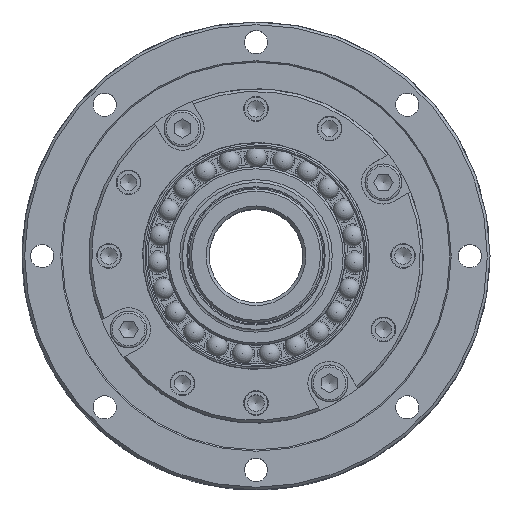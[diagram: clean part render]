
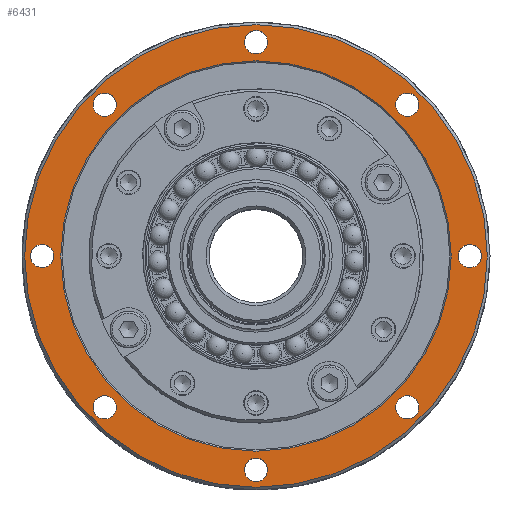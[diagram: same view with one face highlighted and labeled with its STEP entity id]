
A CAD part, top view. The second image highlights one B-rep face of the part: STEP entity #6431.
In plain terms, the highlighted planar face has unit normal (0, 0, 1).
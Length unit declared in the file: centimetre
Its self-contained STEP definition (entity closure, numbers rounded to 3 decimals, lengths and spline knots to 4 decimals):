
#716=PLANE($,#7435);
#972=FACE_BOUND($,#2072,.T.);
#973=FACE_BOUND($,#2073,.T.);
#974=FACE_BOUND($,#2074,.T.);
#975=FACE_BOUND($,#2075,.T.);
#976=FACE_BOUND($,#2076,.T.);
#977=FACE_BOUND($,#2077,.T.);
#978=FACE_BOUND($,#2078,.T.);
#979=FACE_BOUND($,#2079,.T.);
#980=FACE_BOUND($,#2080,.T.);
#981=FACE_BOUND($,#2081,.T.);
#2072=EDGE_LOOP($,(#5732));
#2073=EDGE_LOOP($,(#5733));
#2074=EDGE_LOOP($,(#5734));
#2075=EDGE_LOOP($,(#5735));
#2076=EDGE_LOOP($,(#5736));
#2077=EDGE_LOOP($,(#5737));
#2078=EDGE_LOOP($,(#5738));
#2079=EDGE_LOOP($,(#5739));
#2080=EDGE_LOOP($,(#5740));
#2081=EDGE_LOOP($,(#5741));
#2706=CIRCLE($,#7434,3.46);
#2707=CIRCLE($,#7436,2.92);
#2708=CIRCLE($,#7437,0.175);
#2709=CIRCLE($,#7438,0.175);
#2710=CIRCLE($,#7439,0.175);
#2711=CIRCLE($,#7440,0.175);
#2712=CIRCLE($,#7441,0.175);
#2713=CIRCLE($,#7442,0.175);
#2714=CIRCLE($,#7443,0.175);
#2715=CIRCLE($,#7444,0.175);
#3258=VERTEX_POINT($,#11713);
#3259=VERTEX_POINT($,#11716);
#3260=VERTEX_POINT($,#11718);
#3261=VERTEX_POINT($,#11720);
#3262=VERTEX_POINT($,#11722);
#3263=VERTEX_POINT($,#11724);
#3264=VERTEX_POINT($,#11726);
#3265=VERTEX_POINT($,#11728);
#3266=VERTEX_POINT($,#11730);
#3267=VERTEX_POINT($,#11732);
#4068=EDGE_CURVE($,#3258,#3258,#2706,.T.);
#4069=EDGE_CURVE($,#3259,#3259,#2707,.T.);
#4070=EDGE_CURVE($,#3260,#3260,#2708,.T.);
#4071=EDGE_CURVE($,#3261,#3261,#2709,.T.);
#4072=EDGE_CURVE($,#3262,#3262,#2710,.T.);
#4073=EDGE_CURVE($,#3263,#3263,#2711,.T.);
#4074=EDGE_CURVE($,#3264,#3264,#2712,.T.);
#4075=EDGE_CURVE($,#3265,#3265,#2713,.T.);
#4076=EDGE_CURVE($,#3266,#3266,#2714,.T.);
#4077=EDGE_CURVE($,#3267,#3267,#2715,.T.);
#5732=ORIENTED_EDGE($,*,*,#4069,.F.);
#5733=ORIENTED_EDGE($,*,*,#4070,.T.);
#5734=ORIENTED_EDGE($,*,*,#4071,.T.);
#5735=ORIENTED_EDGE($,*,*,#4072,.T.);
#5736=ORIENTED_EDGE($,*,*,#4073,.T.);
#5737=ORIENTED_EDGE($,*,*,#4074,.T.);
#5738=ORIENTED_EDGE($,*,*,#4075,.T.);
#5739=ORIENTED_EDGE($,*,*,#4076,.T.);
#5740=ORIENTED_EDGE($,*,*,#4077,.T.);
#5741=ORIENTED_EDGE($,*,*,#4068,.F.);
#6431=ADVANCED_FACE($,(#972,#973,#974,#975,#976,#977,#978,#979,#980,#981),
#716,.T.);
#7434=AXIS2_PLACEMENT_3D($,#11714,#9584,#9585);
#7435=AXIS2_PLACEMENT_3D($,#11715,#9586,#9587);
#7436=AXIS2_PLACEMENT_3D($,#11717,#9588,#9589);
#7437=AXIS2_PLACEMENT_3D($,#11719,#9590,#9591);
#7438=AXIS2_PLACEMENT_3D($,#11721,#9592,#9593);
#7439=AXIS2_PLACEMENT_3D($,#11723,#9594,#9595);
#7440=AXIS2_PLACEMENT_3D($,#11725,#9596,#9597);
#7441=AXIS2_PLACEMENT_3D($,#11727,#9598,#9599);
#7442=AXIS2_PLACEMENT_3D($,#11729,#9600,#9601);
#7443=AXIS2_PLACEMENT_3D($,#11731,#9602,#9603);
#7444=AXIS2_PLACEMENT_3D($,#11733,#9604,#9605);
#9584=DIRECTION('center_axis',(0.,0.,-1.));
#9585=DIRECTION('ref_axis',(-1.,0.,0.));
#9586=DIRECTION('center_axis',(0.,0.,1.));
#9587=DIRECTION('ref_axis',(0.,-1.,0.));
#9588=DIRECTION('center_axis',(0.,0.,1.));
#9589=DIRECTION('ref_axis',(-1.,0.,0.));
#9590=DIRECTION('center_axis',(0.,0.,-1.));
#9591=DIRECTION('ref_axis',(0.,1.,0.));
#9592=DIRECTION('center_axis',(0.,0.,-1.));
#9593=DIRECTION('ref_axis',(0.,1.,0.));
#9594=DIRECTION('center_axis',(0.,0.,-1.));
#9595=DIRECTION('ref_axis',(0.,1.,0.));
#9596=DIRECTION('center_axis',(0.,0.,-1.));
#9597=DIRECTION('ref_axis',(0.,1.,0.));
#9598=DIRECTION('center_axis',(0.,0.,-1.));
#9599=DIRECTION('ref_axis',(0.,1.,0.));
#9600=DIRECTION('center_axis',(0.,0.,-1.));
#9601=DIRECTION('ref_axis',(0.,1.,0.));
#9602=DIRECTION('center_axis',(0.,0.,-1.));
#9603=DIRECTION('ref_axis',(0.,1.,0.));
#9604=DIRECTION('center_axis',(0.,0.,-1.));
#9605=DIRECTION('ref_axis',(0.,1.,0.));
#11713=CARTESIAN_POINT('',(3.46,0.,1.36));
#11714=CARTESIAN_POINT('Origin',(0.,0.,1.36));
#11715=CARTESIAN_POINT('Origin',(3.5,0.,1.36));
#11716=CARTESIAN_POINT('',(2.92,0.,1.36));
#11717=CARTESIAN_POINT('Origin',(0.,0.,1.36));
#11718=CARTESIAN_POINT('',(-3.2,-0.175,1.36));
#11719=CARTESIAN_POINT('Origin',(-3.2,0.,1.36));
#11720=CARTESIAN_POINT('',(0.,-3.375,1.36));
#11721=CARTESIAN_POINT('Origin',(0.,-3.2,1.36));
#11722=CARTESIAN_POINT('',(3.2,-0.175,1.36));
#11723=CARTESIAN_POINT('Origin',(3.2,0.,1.36));
#11724=CARTESIAN_POINT('',(0.,3.025,1.36));
#11725=CARTESIAN_POINT('Origin',(0.,3.2,1.36));
#11726=CARTESIAN_POINT('',(2.2627,2.0877,1.36));
#11727=CARTESIAN_POINT('Origin',(2.2627,2.2627,1.36));
#11728=CARTESIAN_POINT('',(2.2627,-2.4377,1.36));
#11729=CARTESIAN_POINT('Origin',(2.2627,-2.2627,1.36));
#11730=CARTESIAN_POINT('',(-2.2627,-2.4377,1.36));
#11731=CARTESIAN_POINT('Origin',(-2.2627,-2.2627,1.36));
#11732=CARTESIAN_POINT('',(-2.2627,2.0877,1.36));
#11733=CARTESIAN_POINT('Origin',(-2.2627,2.2627,1.36));
